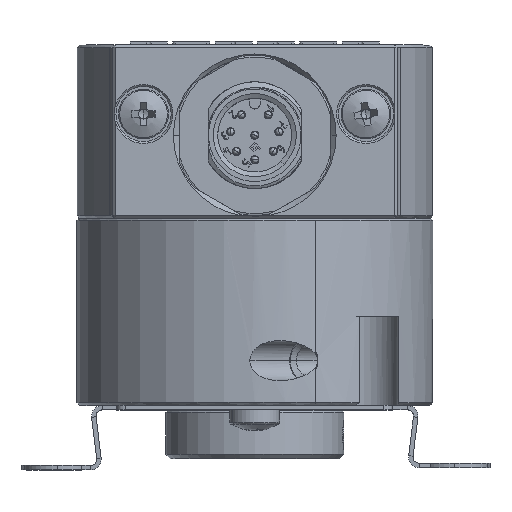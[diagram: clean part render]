
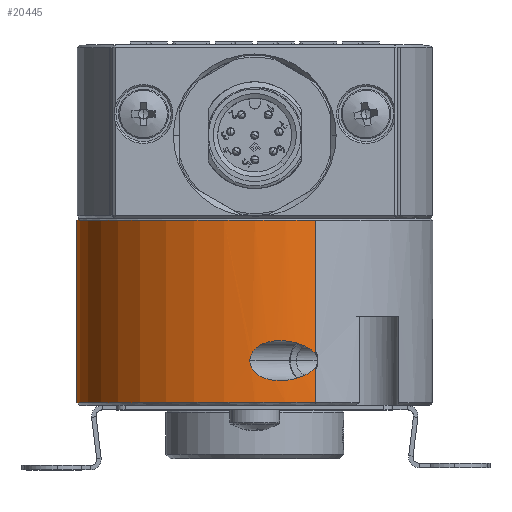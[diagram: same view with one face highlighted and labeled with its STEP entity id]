
A CAD part, top view. The second image highlights one B-rep face of the part: STEP entity #20445.
In plain terms, the highlighted cylindrical face has radius 20 mm (diameter 40 mm), a partial arc.
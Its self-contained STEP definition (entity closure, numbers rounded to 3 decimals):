
#404 = EDGE_CURVE ( 'NONE', #57746, #24240, #10449, .T. ) ;
#503 = CARTESIAN_POINT ( 'NONE',  ( 6.728, 4.118, 18.835 ) ) ;
#990 = CARTESIAN_POINT ( 'NONE',  ( 6.84, 5.736, 18.794 ) ) ;
#1220 = CARTESIAN_POINT ( 'NONE',  ( 2.479, 2.749, 19.849 ) ) ;
#3044 = CARTESIAN_POINT ( 'NONE',  ( -6.84, 20.8, -18.794 ) ) ;
#4669 = CARTESIAN_POINT ( 'NONE',  ( -0.296, 5.903, 19.998 ) ) ;
#4926 = EDGE_CURVE ( 'NONE', #17268, #28579, #25670, .T. ) ;
#4951 = VERTEX_POINT ( 'NONE', #990 ) ;
#5713 = CARTESIAN_POINT ( 'NONE',  ( 4.665, 7., 19.452 ) ) ;
#5791 = CARTESIAN_POINT ( 'NONE',  ( 3.593, 2.786, 19.678 ) ) ;
#5942 = DIRECTION ( 'NONE',  ( 0., 1., 0. ) ) ;
#6045 = CARTESIAN_POINT ( 'NONE',  ( 3.224, 7.249, 19.742 ) ) ;
#6718 = LINE ( 'NONE', #28407, #34085 ) ;
#6828 = LINE ( 'NONE', #66498, #17762 ) ;
#7575 = DIRECTION ( 'NONE',  ( 0., 1., 0. ) ) ;
#7853 = CIRCLE ( 'NONE', #65833, 20. ) ;
#8082 = ORIENTED_EDGE ( 'NONE', *, *, #4926, .T. ) ;
#9198 = CARTESIAN_POINT ( 'NONE',  ( 0.063, 6.341, 20. ) ) ;
#10174 = CARTESIAN_POINT ( 'NONE',  ( -0.547, 4.81, 19.993 ) ) ;
#10449 = LINE ( 'NONE', #16054, #41107 ) ;
#10503 = CARTESIAN_POINT ( 'NONE',  ( -0.381, 4.269, 19.996 ) ) ;
#10820 = ORIENTED_EDGE ( 'NONE', *, *, #21657, .T. ) ;
#11578 = DIRECTION ( 'NONE',  ( 0., 1., 0. ) ) ;
#11605 = CARTESIAN_POINT ( 'NONE',  ( 6.312, 6.239, 18.978 ) ) ;
#11681 = CARTESIAN_POINT ( 'NONE',  ( 4.316, 2.911, 19.532 ) ) ;
#11972 = CARTESIAN_POINT ( 'NONE',  ( 5.69, 6.617, 19.176 ) ) ;
#12050 = CARTESIAN_POINT ( 'NONE',  ( 0.063, 3.659, 20. ) ) ;
#12413 = CARTESIAN_POINT ( 'NONE',  ( 2.109, 2.78, 19.892 ) ) ;
#12492 = CARTESIAN_POINT ( 'NONE',  ( 0., 32.189, 0. ) ) ;
#15803 = CARTESIAN_POINT ( 'NONE',  ( -0.547, 5., 19.993 ) ) ;
#16054 = CARTESIAN_POINT ( 'NONE',  ( 6.84, 32.189, 18.794 ) ) ;
#16175 = CARTESIAN_POINT ( 'NONE',  ( 6.84, 4.264, 18.794 ) ) ;
#16513 = CARTESIAN_POINT ( 'NONE',  ( 0.515, 6.685, 19.994 ) ) ;
#16598 = CARTESIAN_POINT ( 'NONE',  ( -0.24, 4.023, 19.999 ) ) ;
#17203 = CARTESIAN_POINT ( 'NONE',  ( 6.729, 5.881, 18.835 ) ) ;
#17268 = VERTEX_POINT ( 'NONE', #36355 ) ;
#17649 = CARTESIAN_POINT ( 'NONE',  ( 6.161, 3.66, 19.028 ) ) ;
#17762 = VECTOR ( 'NONE', #34769, 1000. ) ;
#17855 = EDGE_CURVE ( 'NONE', #68358, #4951, #56221, .T. ) ;
#20445 = ADVANCED_FACE ( 'NONE', ( #49511 ), #44980, .T. ) ;
#20533 = ORIENTED_EDGE ( 'NONE', *, *, #404, .T. ) ;
#20794 = EDGE_CURVE ( 'NONE', #48612, #28579, #6828, .T. ) ;
#21043 = CARTESIAN_POINT ( 'NONE',  ( 1.011, 6.95, 19.977 ) ) ;
#21657 = EDGE_CURVE ( 'NONE', #48612, #57746, #7853, .T. ) ;
#22527 = CARTESIAN_POINT ( 'NONE',  ( 1.37, 2.931, 19.956 ) ) ;
#24240 = VERTEX_POINT ( 'NONE', #16175 ) ;
#24363 = DIRECTION ( 'NONE',  ( 0.342, 0., 0.94 ) ) ;
#25670 = CIRCLE ( 'NONE', #43555, 20. ) ;
#25980 = CARTESIAN_POINT ( 'NONE',  ( -0.069, 6.207, 20. ) ) ;
#26274 = CARTESIAN_POINT ( 'NONE',  ( -0.514, 4.623, 19.993 ) ) ;
#26540 = DIRECTION ( 'NONE',  ( 0., -1., 0. ) ) ;
#28407 = CARTESIAN_POINT ( 'NONE',  ( 6.84, 32.189, 18.794 ) ) ;
#28579 = VERTEX_POINT ( 'NONE', #3044 ) ;
#32592 = CARTESIAN_POINT ( 'NONE',  ( 6.84, 5.736, 18.794 ) ) ;
#32851 = CARTESIAN_POINT ( 'NONE',  ( -6.84, 0.3, -18.794 ) ) ;
#32941 = CARTESIAN_POINT ( 'NONE',  ( 6.595, 6.01, 18.882 ) ) ;
#33024 = CARTESIAN_POINT ( 'NONE',  ( 3.22, 2.751, 19.743 ) ) ;
#33385 = CARTESIAN_POINT ( 'NONE',  ( -0.072, 3.796, 20. ) ) ;
#33537 = CARTESIAN_POINT ( 'NONE',  ( 6.84, 0.3, 18.794 ) ) ;
#34085 = VECTOR ( 'NONE', #11578, 1000. ) ;
#34769 = DIRECTION ( 'NONE',  ( 0., 1., 0. ) ) ;
#36355 = CARTESIAN_POINT ( 'NONE',  ( 6.84, 20.8, 18.794 ) ) ;
#37012 = DIRECTION ( 'NONE',  ( -0.342, 0., -0.94 ) ) ;
#37104 = CARTESIAN_POINT ( 'NONE',  ( -0.42, 4.356, 19.996 ) ) ;
#38263 = CARTESIAN_POINT ( 'NONE',  ( 6.84, 4.264, 18.794 ) ) ;
#38611 = CARTESIAN_POINT ( 'NONE',  ( 6.311, 3.761, 18.979 ) ) ;
#38747 = B_SPLINE_CURVE_WITH_KNOTS ( 'NONE', 3,
 ( #38263, #503, #59562, #38611, #17649, #49086, #65479, #54359, #11681, #5791, #33024, #1220, #12413, #22527, #43182, #59912, #38974, #12050, #33385, #16598, #54703, #10503, #37104, #26274, #10174, #68158 ),
 .UNSPECIFIED., .F., .F.,
 ( 4, 2, 2, 2, 2, 2, 2, 2, 2, 2, 2, 2, 4 ),
 ( 0.001, 0.001, 0.002, 0.003, 0.004, 0.005, 0.006, 0.007, 0.008, 0.009, 0.009, 0.009, 0.01 ),
 .UNSPECIFIED. ) ;
#38974 = CARTESIAN_POINT ( 'NONE',  ( 0.353, 3.42, 19.997 ) ) ;
#41018 = CARTESIAN_POINT ( 'NONE',  ( -0.547, 5.19, 19.993 ) ) ;
#41107 = VECTOR ( 'NONE', #5942, 1000. ) ;
#42257 = AXIS2_PLACEMENT_3D ( 'NONE', #12492, #66253, #24363 ) ;
#42265 = CARTESIAN_POINT ( 'NONE',  ( 0., 20.8, 0. ) ) ;
#42415 = CARTESIAN_POINT ( 'NONE',  ( 2.105, 7.219, 19.892 ) ) ;
#43182 = CARTESIAN_POINT ( 'NONE',  ( 1.013, 3.049, 19.977 ) ) ;
#43555 = AXIS2_PLACEMENT_3D ( 'NONE', #42265, #26540, #37012 ) ;
#44970 = DIRECTION ( 'NONE',  ( 0.342, 0., 0.94 ) ) ;
#44980 = CYLINDRICAL_SURFACE ( 'NONE', #42257, 20. ) ;
#46028 = EDGE_CURVE ( 'NONE', #24240, #68358, #38747, .T. ) ;
#46235 = CARTESIAN_POINT ( 'NONE',  ( -0.547, 5., 19.993 ) ) ;
#46618 = ORIENTED_EDGE ( 'NONE', *, *, #54167, .T. ) ;
#47056 = ORIENTED_EDGE ( 'NONE', *, *, #20794, .F. ) ;
#47249 = CARTESIAN_POINT ( 'NONE',  ( 0.355, 6.581, 19.997 ) ) ;
#47970 = CARTESIAN_POINT ( 'NONE',  ( 3.59, 7.214, 19.679 ) ) ;
#48612 = VERTEX_POINT ( 'NONE', #32851 ) ;
#49086 = CARTESIAN_POINT ( 'NONE',  ( 5.692, 3.385, 19.176 ) ) ;
#49511 = FACE_OUTER_BOUND ( 'NONE', #61598, .T. ) ;
#52522 = CARTESIAN_POINT ( 'NONE',  ( -0.387, 5.736, 19.996 ) ) ;
#53588 = CARTESIAN_POINT ( 'NONE',  ( 4.31, 7.09, 19.533 ) ) ;
#53926 = CARTESIAN_POINT ( 'NONE',  ( 5.358, 6.762, 19.272 ) ) ;
#54167 = EDGE_CURVE ( 'NONE', #4951, #17268, #6718, .T. ) ;
#54280 = CARTESIAN_POINT ( 'NONE',  ( 6.16, 6.341, 19.028 ) ) ;
#54329 = ORIENTED_EDGE ( 'NONE', *, *, #17855, .T. ) ;
#54359 = CARTESIAN_POINT ( 'NONE',  ( 4.668, 3.001, 19.451 ) ) ;
#54703 = CARTESIAN_POINT ( 'NONE',  ( -0.291, 4.102, 19.998 ) ) ;
#56221 = B_SPLINE_CURVE_WITH_KNOTS ( 'NONE', 3,
 ( #46235, #41018, #57041, #52522, #4669, #25980, #9198, #47249, #16513, #21043, #63653, #42415, #64702, #6045, #47970, #53588, #5713, #53926, #11972, #54280, #11605, #32941, #17203, #32592 ),
 .UNSPECIFIED., .F., .F.,
 ( 4, 2, 2, 2, 2, 2, 2, 2, 2, 2, 2, 4 ),
 ( 0.01, 0.01, 0.011, 0.011, 0.012, 0.013, 0.014, 0.015, 0.016, 0.018, 0.018, 0.019 ),
 .UNSPECIFIED. ) ;
#56446 = CARTESIAN_POINT ( 'NONE',  ( 0., 0.3, 0. ) ) ;
#57041 = CARTESIAN_POINT ( 'NONE',  ( -0.514, 5.377, 19.993 ) ) ;
#57746 = VERTEX_POINT ( 'NONE', #33537 ) ;
#59562 = CARTESIAN_POINT ( 'NONE',  ( 6.595, 3.99, 18.882 ) ) ;
#59912 = CARTESIAN_POINT ( 'NONE',  ( 0.512, 3.317, 19.994 ) ) ;
#61598 = EDGE_LOOP ( 'NONE', ( #47056, #10820, #20533, #64305, #54329, #46618, #8082 ) ) ;
#63653 = CARTESIAN_POINT ( 'NONE',  ( 1.375, 7.07, 19.956 ) ) ;
#64305 = ORIENTED_EDGE ( 'NONE', *, *, #46028, .T. ) ;
#64702 = CARTESIAN_POINT ( 'NONE',  ( 2.477, 7.251, 19.85 ) ) ;
#65479 = CARTESIAN_POINT ( 'NONE',  ( 5.355, 3.237, 19.273 ) ) ;
#65833 = AXIS2_PLACEMENT_3D ( 'NONE', #56446, #7575, #44970 ) ;
#66253 = DIRECTION ( 'NONE',  ( 0., 1., 0. ) ) ;
#66498 = CARTESIAN_POINT ( 'NONE',  ( -6.84, 32.189, -18.794 ) ) ;
#68158 = CARTESIAN_POINT ( 'NONE',  ( -0.547, 5., 19.993 ) ) ;
#68358 = VERTEX_POINT ( 'NONE', #15803 ) ;
